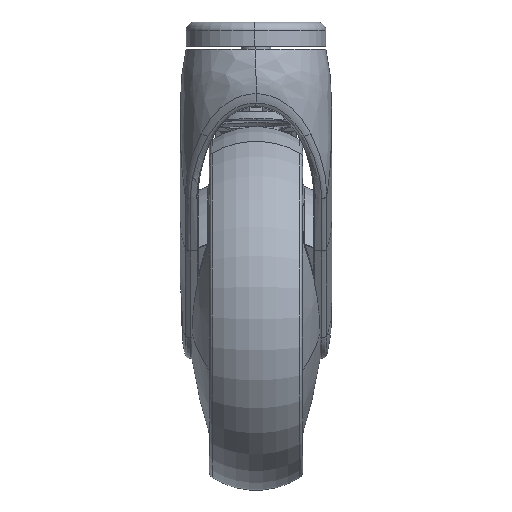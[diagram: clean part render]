
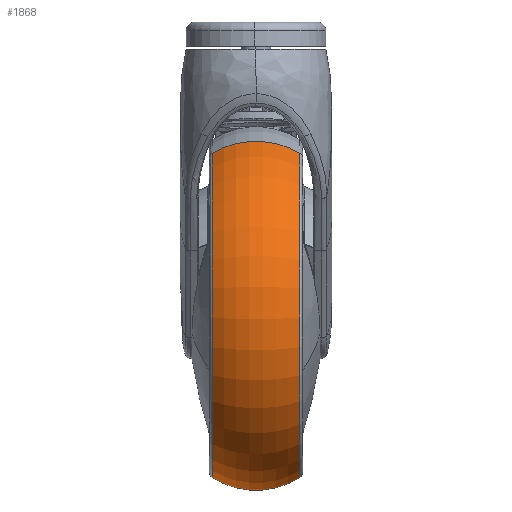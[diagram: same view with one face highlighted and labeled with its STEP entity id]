
A CAD part, left-side view. The second image highlights one B-rep face of the part: STEP entity #1868.
In plain terms, the highlighted toroidal (fillet/blend) face has major radius 34.5 mm and minor radius 28 mm.
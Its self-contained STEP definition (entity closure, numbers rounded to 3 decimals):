
#1636 = EDGE_CURVE ( 'NONE', #10251, #10221, #34881, .T. ) ;
#1641 = EDGE_CURVE ( 'NONE', #10251, #1700, #34866, .T. ) ;
#1644 = EDGE_CURVE ( 'NONE', #10221, #1678, #34884, .T. ) ;
#1678 = VERTEX_POINT ( 'NONE', #34964 ) ;
#1700 = VERTEX_POINT ( 'NONE', #9265 ) ;
#1834 = ORIENTED_EDGE ( 'NONE', *, *, #1853, .F. ) ;
#1837 = EDGE_LOOP ( 'NONE', ( #1838, #1864, #1850, #1834 ) ) ;
#1838 = ORIENTED_EDGE ( 'NONE', *, *, #1641, .F. ) ;
#1850 = ORIENTED_EDGE ( 'NONE', *, *, #1644, .T. ) ;
#1853 = EDGE_CURVE ( 'NONE', #1700, #1678, #9508, .T. ) ;
#1864 = ORIENTED_EDGE ( 'NONE', *, *, #1636, .T. ) ;
#1868 = ADVANCED_FACE ( 'NONE', ( #9502 ), #9533, .T. ) ;
#9265 = CARTESIAN_POINT ( 'NONE',  ( 0.194, -25.577, 16.999 ) ) ;
#9502 = FACE_OUTER_BOUND ( 'NONE', #1837, .T. ) ;
#9507 = CARTESIAN_POINT ( 'NONE',  ( 23.08, -25.577, -36.397 ) ) ;
#9508 = CIRCLE ( 'NONE', #9532, 58.094 ) ;
#9511 = AXIS2_PLACEMENT_3D ( 'NONE', #9605, #9594, #9593 ) ;
#9529 = DIRECTION ( 'NONE',  ( 0.394, 0., -0.919 ) ) ;
#9531 = DIRECTION ( 'NONE',  ( 0., -1., 0. ) ) ;
#9532 = AXIS2_PLACEMENT_3D ( 'NONE', #9507, #9531, #9529 ) ;
#9533 = TOROIDAL_SURFACE ( 'NONE', #9511, 34.5, 28. ) ;
#9593 = DIRECTION ( 'NONE',  ( 0.394, 0., -0.919 ) ) ;
#9594 = DIRECTION ( 'NONE',  ( 0., -1., 0. ) ) ;
#9605 = CARTESIAN_POINT ( 'NONE',  ( 23.08, -10.5, -36.397 ) ) ;
#10221 = VERTEX_POINT ( 'NONE', #62748 ) ;
#10251 = VERTEX_POINT ( 'NONE', #64235 ) ;
#34843 = CARTESIAN_POINT ( 'NONE',  ( 36.672, -10.5, -68.107 ) ) ;
#34845 = DIRECTION ( 'NONE',  ( -0.919, 0., -0.394 ) ) ;
#34846 = DIRECTION ( 'NONE',  ( 0.394, 0., -0.919 ) ) ;
#34847 = DIRECTION ( 'NONE',  ( 0.919, 0., 0.394 ) ) ;
#34848 = AXIS2_PLACEMENT_3D ( 'NONE', #34882, #34847, #34846 ) ;
#34851 = AXIS2_PLACEMENT_3D ( 'NONE', #34843, #34845, #34944 ) ;
#34866 = CIRCLE ( 'NONE', #34848, 28. ) ;
#34874 = DIRECTION ( 'NONE',  ( 0.394, 0., -0.919 ) ) ;
#34876 = DIRECTION ( 'NONE',  ( 0., -1., 0. ) ) ;
#34878 = CARTESIAN_POINT ( 'NONE',  ( 23.08, 4.577, -36.397 ) ) ;
#34879 = AXIS2_PLACEMENT_3D ( 'NONE', #34878, #34876, #34874 ) ;
#34881 = CIRCLE ( 'NONE', #34879, 58.094 ) ;
#34882 = CARTESIAN_POINT ( 'NONE',  ( 9.489, -10.5, -4.687 ) ) ;
#34884 = CIRCLE ( 'NONE', #34851, 28. ) ;
#34944 = DIRECTION ( 'NONE',  ( -0.394, 0., 0.919 ) ) ;
#34964 = CARTESIAN_POINT ( 'NONE',  ( 45.967, -25.577, -89.794 ) ) ;
#62748 = CARTESIAN_POINT ( 'NONE',  ( 45.967, 4.577, -89.794 ) ) ;
#64235 = CARTESIAN_POINT ( 'NONE',  ( 0.194, 4.577, 16.999 ) ) ;
